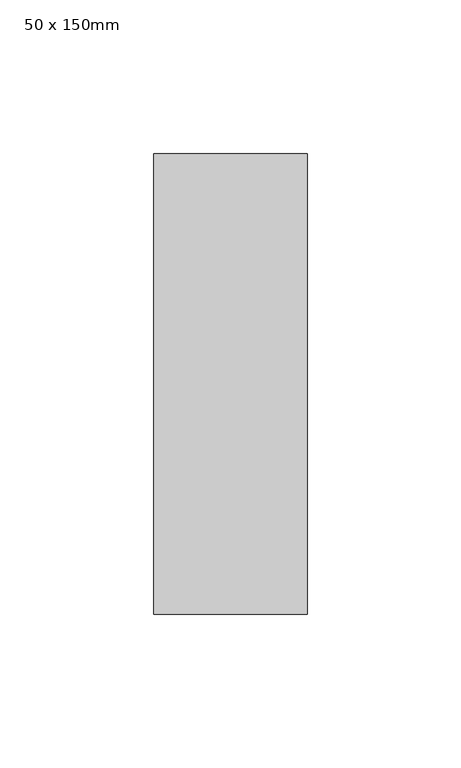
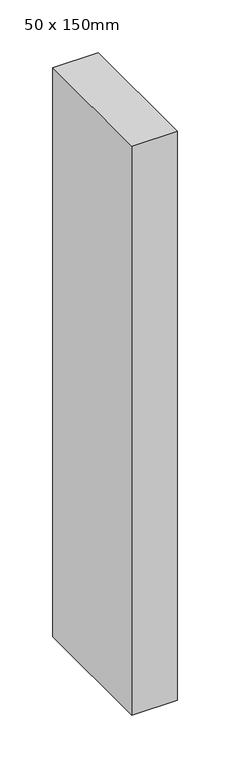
"""IFC4 building model written with IfcOpenShell, lengths in millimetres: member geometry, Прямоугольный импост : 50 x 150mm."""

from ifc_helpers import new_model, si_unit, frame, origin, place, context, project, spatial, polyline, outline, extrude, source, transform, mapped, element, save


def member_50_x_150mm_ed52b403(model_context):
    return source(origin(), model_context, "Body", "SweptSolid", [
        extrude(outline(polyline([(25.0, 75.0), (25.0, -75.0), (-25.0, -75.0), (-25.0, 75.0), (25.0, 75.0)])), frame((0.0, 0.0, -660.0), z_axis=(0.0, 0.0, 1.0), x_axis=(1.0, 0.0, 0.0)), (0.0, 0.0, 1.0), 660.0),
    ])


if __name__ == "__main__":
    model = new_model("IFC4")
    model_context = context("Model", 3, world=origin())
    ifc_project = project(units=[si_unit("LENGTHUNIT", "METRE", prefix="MILLI")], contexts=[model_context])
    site = spatial("IfcSite", under=ifc_project)
    building = spatial("IfcBuilding", under=site)
    placement = place(None, origin())
    member_50_x_150mm_shape = member_50_x_150mm_ed52b403(model_context)
    element("IfcMember", 1, ObjectType="Прямоугольный импост : 50 x 150mm", at=placement, inside=building, context=model_context, shape_type="MappedRepresentation", body=[
        mapped(member_50_x_150mm_shape, transform((0.0, 0.0, 0.0), x_axis=(1.0, 0.0, 0.0), y_axis=(0.0, 1.0, 0.0), z_axis=(0.0, 0.0, 1.0))),
    ])
    save(model, "model.ifc")
